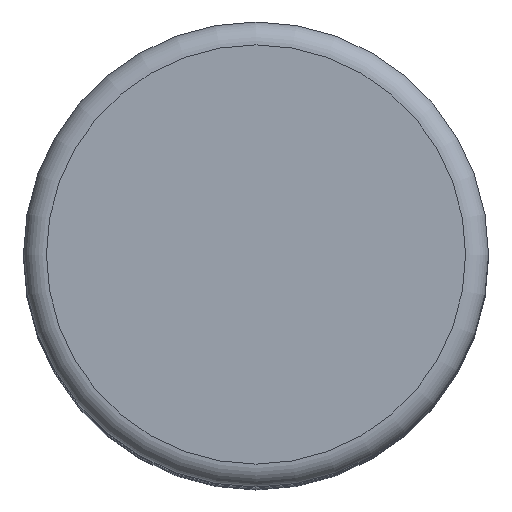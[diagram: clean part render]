
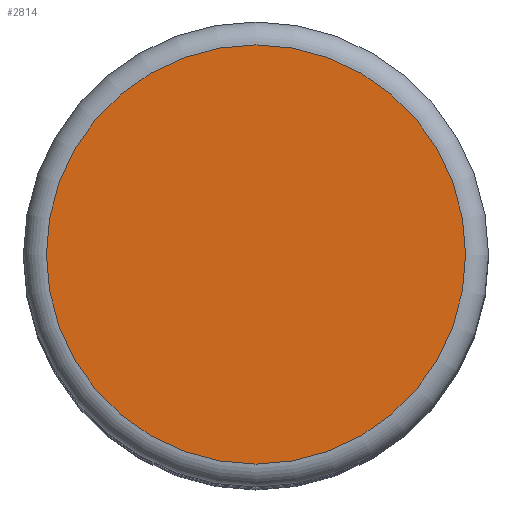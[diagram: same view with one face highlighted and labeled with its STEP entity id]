
A CAD part, top view. The second image highlights one B-rep face of the part: STEP entity #2814.
In plain terms, the highlighted planar face has unit normal (0, 0, 1).
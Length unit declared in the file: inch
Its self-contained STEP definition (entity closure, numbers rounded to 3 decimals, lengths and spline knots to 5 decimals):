
#145=PLANE('',#3011);
#303=FACE_OUTER_BOUND('',#459,.T.);
#459=EDGE_LOOP('',(#2631));
#693=CIRCLE('',#3010,0.18276);
#1356=VERTEX_POINT('',#6372);
#1781=EDGE_CURVE('',#1356,#1356,#693,.T.);
#2631=ORIENTED_EDGE('',*,*,#1781,.F.);
#2814=ADVANCED_FACE('',(#303),#145,.T.);
#3010=AXIS2_PLACEMENT_3D('',#6374,#3555,#3556);
#3011=AXIS2_PLACEMENT_3D('',#6375,#3557,#3558);
#3555=DIRECTION('center_axis',(0.,0.,-1.));
#3556=DIRECTION('ref_axis',(-1.,0.,0.));
#3557=DIRECTION('center_axis',(0.,0.,1.));
#3558=DIRECTION('ref_axis',(1.,0.,0.));
#6372=CARTESIAN_POINT('',(0.18276,0.,0.74803));
#6374=CARTESIAN_POINT('Origin',(0.,0.,0.74803));
#6375=CARTESIAN_POINT('Origin',(0.,0.,0.74803));
